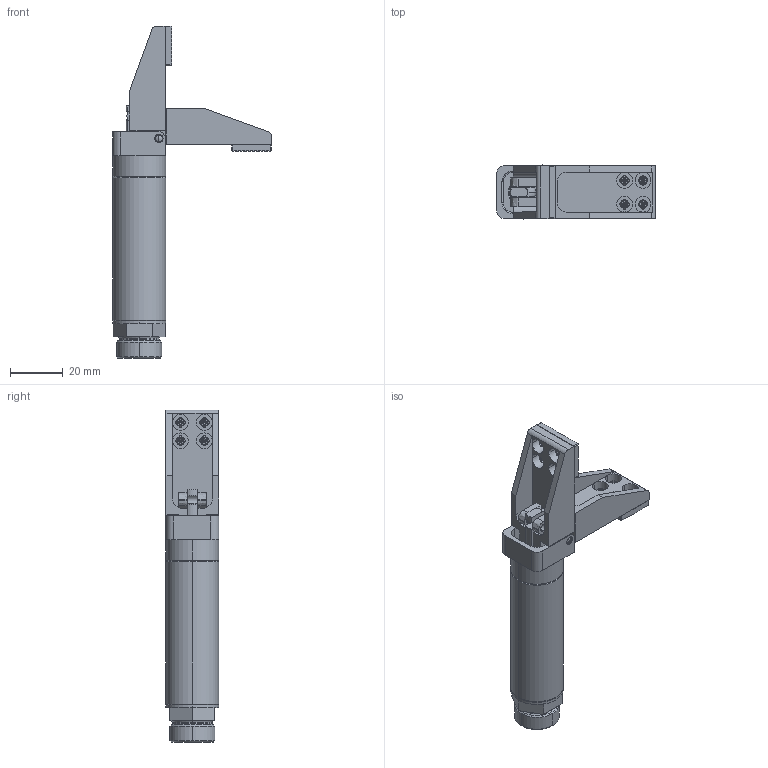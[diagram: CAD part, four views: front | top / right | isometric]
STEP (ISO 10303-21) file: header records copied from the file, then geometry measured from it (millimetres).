
FILE_DESCRIPTION (( 'STEP AP214' ), '1' );
FILE_NAME ('GFR20-95L.STEP', '2019-11-13T02:41:28', ( '微软用户' ), ( '微软中国' ), 'SwSTEP 2.0', 'SolidWorks 2016', '' );
FILE_SCHEMA (( 'AUTOMOTIVE_DESIGN' ));
Length unit declared in the file: millimetre
Products named in the file (1): GFR20-95L
Bounding box: 60 x 20.33 x 125.5 mm (x, y, z)
Volume: 32061.8 mm3; surface area: 26346.1 mm2
Topology: 11 solids, 11 shells, 3968 faces, 8588 edges, 4660 vertices
Faces by surface type: plane 3288, cylinder 354, torus 197, bspline 71, cone 54, sphere 4
Entity records: 149143 total; most frequent: CARTESIAN_POINT 21427, ORIENTED_EDGE 17176, DIRECTION 17090, EDGE_CURVE 8588, LINE 7008, VECTOR 7008, AXIS2_PLACEMENT_3D 5041, VERTEX_POINT 4660
